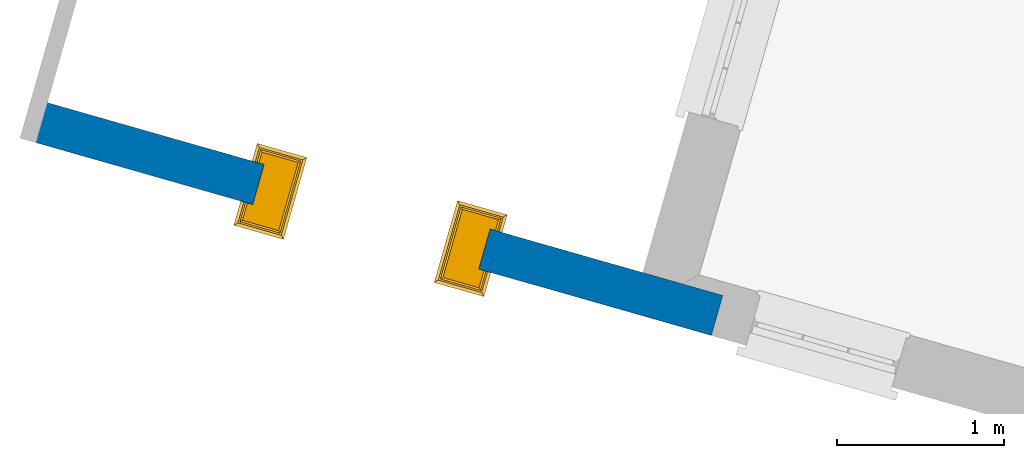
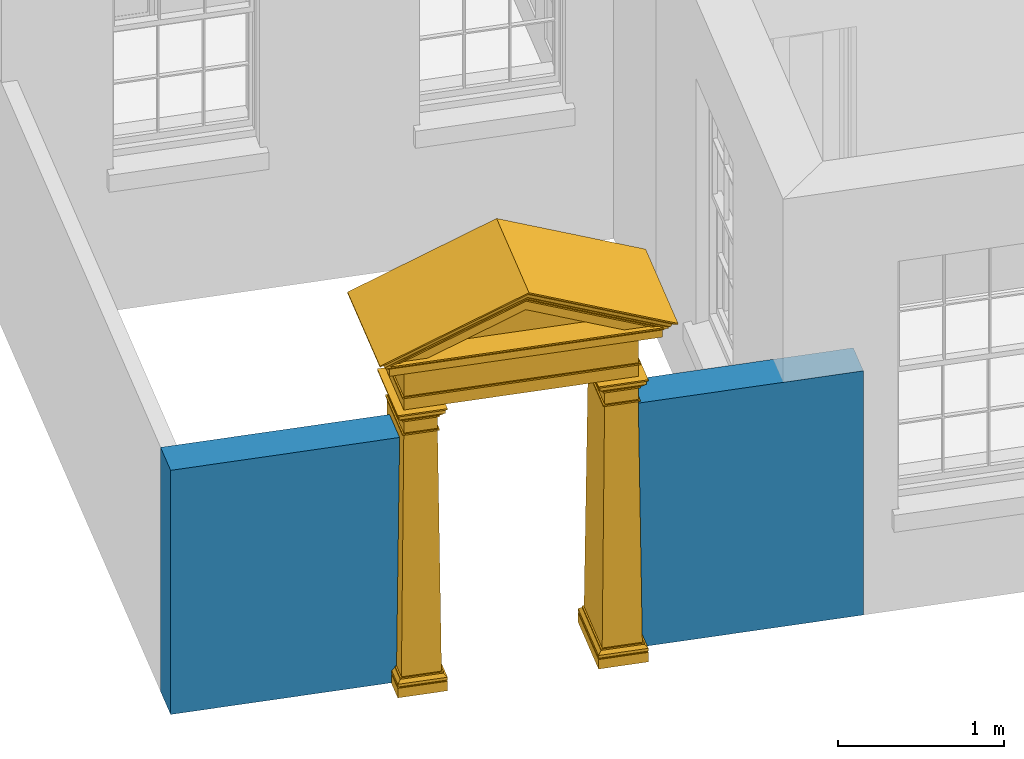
# One storey, part 2 of 7: 1 door, 1 wall, 1 opening.
"""IFC4 building model written with IfcOpenShell, lengths in metres."""

from ifc_helpers import new_model, si_unit, frame, origin, origin_with_axes, place, context, subcontext, project, spatial, polyline, outline, extrude, faceted_brep, source, transform, mapped, material, layer, layer_set, layer_usage, type_object, type_shapes, element, fill, save


model = new_model("IFC4")

# Units and contexts
model_context = context("Model", 3, world=origin_with_axes())
body_context = subcontext(model_context, "Body", "Model", "MODEL_VIEW")
ifc_project = project(units=[si_unit("PLANEANGLEUNIT", "RADIAN"), si_unit("MASSUNIT", "GRAM", prefix="KILO"), si_unit("FORCEUNIT", "NEWTON", prefix="KILO"), si_unit("LENGTHUNIT", "METRE"), si_unit("AREAUNIT", "SQUARE_METRE"), si_unit("VOLUMEUNIT", "CUBIC_METRE")], contexts=[model_context, model_context])

# Sites, building, storey
site_1_placement = place(None, origin_with_axes())
site_1 = spatial("IfcSite", under=ifc_project, at=site_1_placement, Name="Tamar")
site_2_placement = place(site_1_placement, origin_with_axes())
site_2 = spatial("IfcSite", under=site_1, at=site_2_placement, Name="Site plot-20", CompositionType="ELEMENT")
building_placement = place(None, origin_with_axes())
building = spatial("IfcBuilding", under=site_2, at=building_placement, Name="Building plot-20", CompositionType="ELEMENT")
storey_placement = place(None, frame((0.0, 0.0, 26.0), z_axis=(0.0, 0.0, 1.0), x_axis=(1.0, 0.0, 0.0)))
storey = spatial("IfcBuildingStorey", under=building, at=storey_placement, Name="plot-20 0", CompositionType="ELEMENT", Elevation=26.0)

# Wall, opening, door
ifc_material = material(Name="Masonry")
ifc_layer = layer(ifc_material, 0.25, ventilated=False)
ifc_layer_set = layer_set([ifc_layer], Name="fence_0_0.25")
ifc_layer_usage = layer_usage(ifc_layer_set, "AXIS2", "POSITIVE", -0.25)
wall_type = type_object("IfcWallType", Name="fence_0_0.25", PredefinedType="SOLIDWALL", material=ifc_layer_set)
wall_placement = place(storey_placement, frame((272.577609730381, 285.796427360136, 0.0), z_axis=(0.0, 0.0, 1.0), x_axis=(0.961567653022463, -0.274568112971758, 0.0)))
wall = element("IfcWall", 1, at=wall_placement, inside=storey, type_object=wall_type, material=ifc_layer_usage, Name="fence", context=body_context, shape_type="SweptSolid", body=[
    extrude(outline(polyline([(-0.250000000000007, 6.80297662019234e-15), (-0.250000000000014, -0.250000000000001), (4.06323123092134, -0.250000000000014), (4.06323123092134, -6.76663930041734e-15), (-0.250000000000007, 6.80297662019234e-15)])), origin_with_axes(), (0.0, 0.0, 1.0), 1.8),
])
opening_placement = place(wall_placement, frame((1.20161561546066, 0.0, -0.0100000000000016)))
opening = element("IfcOpeningElement", 2, at=opening_placement, cuts=wall, Name="My Opening", ObjectType="Opening", context=body_context, shape_type="SweptSolid", body=[
    extrude(outline(polyline([(0.0, -0.269999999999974), (1.41000000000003, -0.270000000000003), (1.40999999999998, 1.01999999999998), (-4.10782519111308e-14, 1.02000000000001), (0.0, -0.269999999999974)])), origin_with_axes(), (0.0, 0.0, 1.0), 1.81),
])
door_type = type_object("IfcDoorType", Name="gate", OperationType="SINGLE_SWING_LEFT", PredefinedType="NOTDEFINED")
shared_shape = source(origin(), body_context, "Body", "Brep", [
    faceted_brep([(1.565, 0.25, 2.5), (1.565, -0.21, 2.5), (1.565, -0.21, 2.49), (1.565, 0.25, 2.49), (1.445, -0.09, 2.01), (1.215, -0.09, 2.01), (1.215, -0.09, 2.0), (1.445, -0.09, 2.0), (-0.035, -0.09, 2.180001), (-0.025, -0.08, 2.180001), (-0.025, 0.25, 2.180001), (-0.035, 0.25, 2.180001), (-0.025, -0.08, 2.170001), (-0.035, -0.09, 2.170001), (-0.035, 0.25, 2.170001), (-0.025, 0.25, 2.170001), (1.445, -0.09, 2.180001), (1.435, -0.08, 2.180001), (-0.025, -0.08, 2.37), (-0.025, 0.25, 2.37), (1.435, -0.08, 2.170001), (1.445, -0.09, 2.170001), (-0.025, -0.08, 2.08), (-0.025, 0.25, 2.08), (1.445, 0.25, 2.180001), (1.435, 0.25, 2.180001), (1.435, -0.08, 2.37), (-0.035, -0.09, 2.37), (-0.035, 0.25, 2.37), (1.435, 0.25, 2.37), (1.445, 0.25, 2.170001), (1.435, 0.25, 2.170001), (0.235, -0.08, 2.08), (0.235, 0.25, 2.08), (1.175, 0.25, 2.08), (1.175, -0.08, 2.08), (-0.075, 0.25, 2.08), (-0.075, -0.13, 2.08), (1.445, -0.09, 2.37), (-0.035, -0.09, 2.380001), (-0.035, 0.25, 2.380001), (1.445, 0.25, 2.37), (1.435, -0.08, 2.08), (1.435, 0.25, 2.08), (0.235, 0.38, 2.07), (0.235, 0.38, 2.08), (0.235, 0.33, 2.08), (0.235, -0.13, 2.08), (-0.075, 0.25, 2.07), (-0.075, -0.13, 2.07), (1.445, -0.09, 2.380001), (-0.045, -0.1, 2.39), (-0.045, 0.25, 2.39), (1.455, 0.25, 2.39), (1.455, -0.1, 2.39), (1.445, 0.25, 2.380001), (1.485, -0.13, 2.08), (1.485, 0.25, 2.08), (0.235, -0.13, 2.07), (1.175, -0.13, 2.08), (-0.065, 0.25, 2.07), (-0.065, -0.12, 2.07), (-0.055, -0.11, 2.39), (-0.055, 0.25, 2.39), (1.465, 0.25, 2.39), (1.465, -0.11, 2.39), (1.485, 0.25, 2.07), (1.485, -0.13, 2.07), (0.225, 0.25, 2.07), (0.235, 0.25, 2.07), (0.225, -0.12, 2.07), (-0.065, 0.25, 2.04), (-0.065, -0.12, 2.04), (1.475, 0.25, 2.07), (1.475, -0.12, 2.07), (1.175, 0.25, 2.07), (1.185, 0.25, 2.07), (1.185, -0.12, 2.07), (1.175, -0.13, 2.07), (1.175, 0.33, 2.08), (1.175, 0.38, 2.07), (-0.055, -0.11, 2.4), (-0.055, 0.25, 2.4), (1.465, 0.25, 2.4), (1.465, -0.11, 2.4), (0.225, 0.25, 2.04), (0.225, -0.12, 2.04), (-0.055, 0.25, 2.04), (-0.055, -0.11, 2.04), (1.475, 0.25, 2.04), (1.475, -0.12, 2.04), (1.185, 0.25, 2.04), (1.195, 0.25, 2.04), (1.195, -0.11, 2.04), (1.185, -0.12, 2.04), (-0.065, -0.12, 2.4), (-0.065, 0.25, 2.4), (-0.085, -0.14, 2.42), (-0.085, 0.25, 2.42), (-0.085, -0.14, 2.43), (-0.085, 0.25, 2.43), (1.495, 0.25, 2.43), (1.495, -0.14, 2.43), (1.495, -0.14, 2.42), (1.495, 0.25, 2.42), (1.475, 0.25, 2.4), (1.475, -0.12, 2.4), (0.215, 0.25, 2.04), (0.215, -0.11, 2.04), (-0.055, 0.25, 2.03), (-0.055, -0.11, 2.03), (0.215, 0.25, 2.03), (0.215, -0.11, 2.03), (1.465, 0.25, 2.04), (1.465, -0.11, 2.04), (1.195, 0.25, 2.03), (1.195, -0.11, 2.03), (1.465, 0.25, 2.03), (1.465, -0.11, 2.03), (-0.145, -0.2, 2.43), (-0.145, 0.25, 2.43), (1.555, 0.25, 2.43), (1.555, -0.2, 2.43), (-0.035, 0.25, 2.01), (-0.035, -0.09, 2.01), (0.195, 0.25, 2.01), (0.195, -0.09, 2.01), (1.215, 0.25, 2.01), (1.445, 0.25, 2.01), (-0.145, -0.2, 2.49), (-0.145, 0.25, 2.49), (1.555, 0.25, 2.49), (1.555, -0.2, 2.49), (-0.035, 0.25, 2.0), (-0.035, -0.09, 2.0), (0.195, 0.25, 2.0), (0.195, -0.09, 2.0), (1.215, 0.25, 2.0), (1.445, 0.25, 2.0), (-0.155, -0.21, 2.49), (-0.155, 0.25, 2.49), (-0.155, -0.21, 2.5), (-0.155, 0.25, 2.5), (-0.165, -0.22, 2.51), (-0.165, 0.25, 2.51), (1.575, 0.25, 2.51), (1.575, -0.22, 2.51), (-0.025, -0.08, 2.0), (-0.025, 0.25, 2.0), (0.185, -0.08, 2.0), (0.185, 0.25, 2.0), (-0.025, 0.25, 1.91), (-0.025, -0.08, 1.91), (0.185, 0.25, 1.91), (0.185, -0.08, 1.91), (1.225, 0.25, 2.0), (1.225, -0.08, 2.0), (1.435, -0.08, 2.0), (1.435, 0.25, 2.0), (1.435, 0.25, 1.91), (1.435, -0.08, 1.91), (1.225, 0.25, 1.91), (1.225, -0.08, 1.91), (-0.175, -0.23, 2.51), (-0.175, 0.25, 2.51), (1.585, 0.25, 2.51), (1.585, -0.23, 2.51), (-0.035, 0.25, 1.91), (-0.035, -0.09, 1.91), (0.195, -0.09, 1.91), (0.195, 0.25, 1.91), (1.445, -0.09, 1.91), (1.445, 0.25, 1.91), (1.215, -0.09, 1.91), (1.215, 0.25, 1.91), (-0.175, -0.23, 2.52), (-0.175, 0.25, 2.52), (1.585, 0.25, 2.52), (1.585, -0.23, 2.52), (-0.035, 0.25, 1.9), (-0.035, -0.09, 1.9), (0.195, 0.25, 1.9), (0.195, -0.09, 1.9), (-0.025, -0.08, 1.9), (-0.025, 0.25, 1.9), (0.185, -0.08, 1.9), (0.185, 0.25, 1.9), (-0.045, 0.25, 0.13), (-0.045, -0.1, 0.13), (0.205, 0.25, 0.13), (0.205, -0.1, 0.13), (1.445, -0.09, 1.9), (1.445, 0.25, 1.9), (1.435, -0.08, 1.9), (1.435, 0.25, 1.9), (1.455, -0.1, 0.13), (1.455, 0.25, 0.13), (1.225, 0.25, 1.9), (1.205, 0.25, 0.13), (1.205, -0.1, 0.13), (1.225, -0.08, 1.9), (1.215, -0.09, 1.9), (1.215, 0.25, 1.9), (-0.185, -0.24, 2.526), (-0.185, 0.25, 2.526), (-0.150858, -0.23, 2.52), (1.560858, -0.23, 2.52), (-0.195, -0.25, 2.551001), (-0.195, 0.25, 2.551001), (-0.223, 0.25, 2.561001), (-0.223, -0.278, 2.561001), (1.633, -0.278, 2.561001), (1.605, -0.25, 2.551001), (1.605, 0.25, 2.551001), (1.633, 0.25, 2.561001), (1.595, 0.25, 2.526), (1.595, -0.24, 2.526), (-0.055, 0.25, 0.13), (-0.055, -0.11, 0.13), (0.215, 0.25, 0.13), (0.215, -0.11, 0.13), (1.465, -0.11, 0.13), (1.465, 0.25, 0.13), (1.195, 0.25, 0.13), (1.195, -0.11, 0.13), (0.705, -0.23, 2.884508), (0.705, -0.24, 2.89465), (0.705, -0.23, 2.874508), (1.486538, -0.21, 2.522499), (-0.076538, -0.21, 2.522499), (0.705, -0.25, 2.923792), (0.705, -0.278, 2.945389), (-0.223, -0.278, 2.571001), (-0.223, 0.25, 2.571001), (1.633, 0.25, 2.571001), (1.633, -0.278, 2.571001), (-0.055, 0.25, 0.12), (-0.055, -0.11, 0.12), (0.215, 0.25, 0.12), (0.215, -0.11, 0.12), (-0.075, 0.25, 0.1), (-0.075, -0.13, 0.1), (0.235, 0.25, 0.1), (0.235, -0.13, 0.1), (1.465, 0.25, 0.12), (1.465, -0.11, 0.12), (1.485, 0.25, 0.1), (1.485, -0.13, 0.1), (1.195, 0.25, 0.12), (1.175, 0.25, 0.1), (1.175, -0.13, 0.1), (1.195, -0.11, 0.12), (-0.13784, -0.22, 2.52125), (0.705, -0.22, 2.870365), (1.51068, -0.21, 2.522499), (1.54784, -0.22, 2.52125), (1.316733, -0.2, 2.523749), (0.093267, -0.2, 2.523749), (-0.10068, -0.21, 2.522499), (0.705, -0.278, 2.955389), (0.705, 0.25, 2.955389), (-0.075, 0.25, 0.08), (-0.075, -0.13, 0.08), (0.235, 0.25, 0.08), (0.235, -0.13, 0.08), (1.485, -0.13, 0.08), (1.485, 0.25, 0.08), (1.175, 0.25, 0.08), (1.175, -0.13, 0.08), (0.705, -0.21, 2.856223), (0.705, -0.21, 2.846222), (1.272495, -0.14, 2.53125), (0.137505, -0.14, 2.53125), (-0.06352, -0.2, 2.523749), (1.47352, -0.2, 2.523749), (-0.065, 0.25, 0.07), (-0.065, -0.12, 0.07), (0.225, 0.25, 0.07), (0.225, -0.12, 0.07), (1.475, 0.25, 0.07), (1.475, -0.12, 0.07), (1.185, 0.25, 0.07), (1.185, -0.12, 0.07), (0.705, -0.2, 2.842082), (1.298626, -0.14, 2.53125), (1.214197, -0.12, 2.533749), (0.195803, -0.12, 2.533749), (0.111374, -0.14, 2.53125), (0.705, -0.2, 2.777137), (-0.075, 0.25, 0.07), (-0.075, -0.13, 0.07), (0.235, -0.13, 0.07), (0.235, 0.25, 0.07), (0.235, -0.13, 0.0), (-0.075, -0.13, 0.0), (-0.075, 0.25, 0.0), (0.235, 0.25, 0.0), (1.485, -0.13, 0.07), (1.485, 0.25, 0.07), (1.485, -0.13, 0.0), (1.175, -0.13, 0.0), (1.175, 0.25, 0.0), (1.485, 0.25, 0.0), (1.175, -0.13, 0.07), (1.175, 0.25, 0.07), (0.705, -0.14, 2.766314), (0.705, -0.14, 2.777137), (0.705, -0.12, 2.744666), (1.185048, -0.11, 2.535), (0.224952, -0.11, 2.535), (0.705, -0.11, 2.744666), (1.211179, -0.11, 2.535), (1.12675, -0.09, 2.537501), (0.28325, -0.09, 2.537501), (0.198821, -0.11, 2.535), (0.705, -0.11, 2.733843), (1.152881, -0.09, 2.537501), (1.18203, -0.1, 2.536251), (0.286268, -0.08, 2.538751), (1.123732, -0.08, 2.538751), (0.22797, -0.1, 2.536251), (0.257119, -0.09, 2.537501), (0.705, -0.1, 2.733843), (0.705, -0.09, 2.712194), (0.705, -0.09, 2.723017), (0.705, -0.08, 2.712194), (-0.155, 0.46, 2.5), (-0.155, 0.46, 2.49), (-0.035, 0.34, 2.01), (0.195, 0.34, 2.01), (0.195, 0.34, 2.0), (-0.035, 0.34, 2.0), (1.445, 0.34, 2.180001), (1.435, 0.33, 2.180001), (1.435, 0.33, 2.170001), (1.445, 0.34, 2.170001), (-0.035, 0.34, 2.180001), (-0.025, 0.33, 2.180001), (1.435, 0.33, 2.37), (-0.025, 0.33, 2.170001), (-0.035, 0.34, 2.170001), (1.435, 0.33, 2.08), (-0.025, 0.33, 2.37), (1.445, 0.34, 2.37), (1.485, 0.38, 2.08), (-0.035, 0.34, 2.37), (1.445, 0.34, 2.380001), (-0.025, 0.33, 2.08), (1.175, 0.38, 2.08), (1.485, 0.38, 2.07), (-0.035, 0.34, 2.380001), (1.455, 0.35, 2.39), (-0.045, 0.35, 2.39), (-0.075, 0.38, 2.08), (1.475, 0.37, 2.07), (1.465, 0.36, 2.39), (-0.055, 0.36, 2.39), (-0.075, 0.38, 2.07), (1.185, 0.37, 2.07), (1.475, 0.37, 2.04), (-0.065, 0.37, 2.07), (0.225, 0.37, 2.07), (1.465, 0.36, 2.4), (-0.055, 0.36, 2.4), (1.185, 0.37, 2.04), (1.465, 0.36, 2.04), (-0.065, 0.37, 2.04), (0.215, 0.36, 2.04), (0.225, 0.37, 2.04), (1.475, 0.37, 2.4), (1.495, 0.39, 2.42), (1.495, 0.39, 2.43), (-0.085, 0.39, 2.43), (-0.085, 0.39, 2.42), (-0.065, 0.37, 2.4), (1.195, 0.36, 2.04), (1.465, 0.36, 2.03), (1.195, 0.36, 2.03), (-0.055, 0.36, 2.04), (0.215, 0.36, 2.03), (-0.055, 0.36, 2.03), (1.555, 0.45, 2.43), (-0.145, 0.45, 2.43), (1.445, 0.34, 2.01), (1.215, 0.34, 2.01), (1.555, 0.45, 2.49), (-0.145, 0.45, 2.49), (1.445, 0.34, 2.0), (1.215, 0.34, 2.0), (1.565, 0.46, 2.49), (1.565, 0.46, 2.5), (1.575, 0.47, 2.51), (-0.165, 0.47, 2.51), (1.435, 0.33, 2.0), (1.225, 0.33, 2.0), (1.435, 0.33, 1.91), (1.225, 0.33, 1.91), (0.185, 0.33, 2.0), (-0.025, 0.33, 2.0), (-0.025, 0.33, 1.91), (0.185, 0.33, 1.91), (1.585, 0.48, 2.51), (-0.175, 0.48, 2.51), (1.445, 0.34, 1.91), (1.215, 0.34, 1.91), (-0.035, 0.34, 1.91), (0.195, 0.34, 1.91), (1.585, 0.48, 2.52), (-0.175, 0.48, 2.52), (1.445, 0.34, 1.9), (1.215, 0.34, 1.9), (1.435, 0.33, 1.9), (1.225, 0.33, 1.9), (1.455, 0.35, 0.13), (1.205, 0.35, 0.13), (-0.035, 0.34, 1.9), (-0.025, 0.33, 1.9), (-0.045, 0.35, 0.13), (0.205, 0.35, 0.13), (0.185, 0.33, 1.9), (0.195, 0.34, 1.9), (1.595, 0.49, 2.526), (1.560858, 0.48, 2.52), (-0.150858, 0.48, 2.52), (1.605, 0.5, 2.551001), (1.633, 0.528, 2.561001), (-0.223, 0.528, 2.561001), (-0.195, 0.5, 2.551001), (-0.185, 0.49, 2.526), (1.465, 0.36, 0.13), (1.195, 0.36, 0.13), (-0.055, 0.36, 0.13), (0.215, 0.36, 0.13), (0.705, 0.48, 2.884508), (0.705, 0.49, 2.89465), (0.705, 0.48, 2.874508), (-0.076538, 0.46, 2.522499), (1.486538, 0.46, 2.522499), (0.705, 0.5, 2.923792), (0.705, 0.528, 2.945389), (1.633, 0.528, 2.571001), (-0.223, 0.528, 2.571001), (1.465, 0.36, 0.12), (1.195, 0.36, 0.12), (1.485, 0.38, 0.1), (1.175, 0.38, 0.1), (-0.055, 0.36, 0.12), (-0.075, 0.38, 0.1), (0.235, 0.38, 0.1), (0.215, 0.36, 0.12), (1.54784, 0.47, 2.52125), (0.705, 0.47, 2.870365), (-0.10068, 0.46, 2.522499), (-0.13784, 0.47, 2.52125), (0.093267, 0.45, 2.523749), (1.316733, 0.45, 2.523749), (1.51068, 0.46, 2.522499), (0.705, 0.528, 2.955389), (1.485, 0.38, 0.08), (1.175, 0.38, 0.08), (-0.075, 0.38, 0.08), (0.235, 0.38, 0.08), (0.705, 0.46, 2.856223), (0.705, 0.46, 2.846222), (0.137505, 0.39, 2.53125), (1.272495, 0.39, 2.53125), (1.47352, 0.45, 2.523749), (-0.06352, 0.45, 2.523749), (1.475, 0.37, 0.07), (1.185, 0.37, 0.07), (-0.065, 0.37, 0.07), (0.225, 0.37, 0.07), (0.705, 0.45, 2.842082), (0.111374, 0.39, 2.53125), (0.195803, 0.37, 2.533749), (1.214197, 0.37, 2.533749), (1.298626, 0.39, 2.53125), (0.705, 0.45, 2.777137), (1.485, 0.38, 0.07), (1.175, 0.38, 0.07), (1.175, 0.38, 0.0), (1.485, 0.38, 0.0), (-0.075, 0.38, 0.07), (-0.075, 0.38, 0.0), (0.235, 0.38, 0.0), (0.235, 0.38, 0.07), (0.705, 0.39, 2.766314), (0.705, 0.39, 2.777137), (0.705, 0.37, 2.744666), (0.224952, 0.36, 2.535), (1.185048, 0.36, 2.535), (0.705, 0.36, 2.744666), (0.198821, 0.36, 2.535), (0.28325, 0.34, 2.537501), (1.12675, 0.34, 2.537501), (1.211179, 0.36, 2.535), (0.705, 0.36, 2.733843), (0.257119, 0.34, 2.537501), (0.22797, 0.35, 2.536251), (1.123732, 0.33, 2.538751), (0.286268, 0.33, 2.538751), (1.18203, 0.35, 2.536251), (1.152881, 0.34, 2.537501), (0.705, 0.35, 2.733843), (0.705, 0.34, 2.723017), (0.705, 0.34, 2.712194), (0.705, 0.33, 2.712194)], [[[0, 1, 2, 3]], [[4, 5, 6, 7]], [[8, 9, 10, 11]], [[12, 13, 14, 15]], [[13, 8, 11, 14]], [[9, 8, 16, 17]], [[9, 18, 19, 10]], [[13, 12, 20, 21]], [[22, 12, 15, 23]], [[8, 13, 21, 16]], [[17, 16, 24, 25]], [[18, 9, 17, 26]], [[27, 28, 19, 18]], [[26, 17, 25, 29]], [[16, 21, 30, 24]], [[21, 20, 31, 30]], [[32, 33, 34, 35]], [[12, 32, 35, 20]], [[12, 22, 32]], [[22, 23, 36, 37]], [[27, 18, 26, 38]], [[39, 40, 28, 27]], [[41, 38, 26, 29]], [[20, 42, 43, 31]], [[44, 45, 46]], [[42, 20, 35]], [[37, 47, 32, 22]], [[36, 48, 49, 37]], [[39, 27, 38, 50]], [[51, 52, 40, 39]], [[53, 54, 50, 55]], [[55, 50, 38, 41]], [[43, 42, 56, 57]], [[32, 47, 58]], [[59, 56, 42, 35]], [[58, 47, 37, 49]], [[48, 60, 61, 49]], [[51, 39, 50, 54]], [[62, 63, 52, 51]], [[64, 65, 54, 53]], [[66, 57, 56, 67]], [[68, 69, 58, 70]], [[60, 71, 72, 61]], [[73, 66, 67, 74]], [[75, 76, 77, 78]], [[34, 79, 80, 75]], [[59, 78, 67, 56]], [[61, 70, 58, 49]], [[62, 51, 54, 65]], [[81, 82, 63, 62]], [[83, 84, 65, 64]], [[85, 68, 70, 86]], [[71, 87, 88, 72]], [[86, 70, 61, 72]], [[77, 74, 67, 78]], [[89, 73, 74, 90]], [[91, 92, 93, 94]], [[76, 91, 94, 77]], [[81, 62, 65, 84]], [[95, 96, 82, 81]], [[97, 98, 96, 95]], [[99, 100, 98, 97]], [[101, 102, 103, 104]], [[105, 106, 84, 83]], [[104, 103, 106, 105]], [[107, 85, 86, 108]], [[87, 109, 110, 88]], [[88, 108, 86, 72]], [[111, 107, 108, 112]], [[77, 94, 90, 74]], [[113, 89, 90, 114]], [[92, 115, 116, 93]], [[93, 114, 90, 94]], [[117, 113, 114, 118]], [[95, 81, 84, 106]], [[97, 95, 106, 103]], [[119, 120, 100, 99]], [[99, 97, 103, 102]], [[121, 122, 102, 101]], [[109, 123, 124, 110]], [[112, 108, 88, 110]], [[125, 111, 112, 126]], [[115, 127, 5, 116]], [[93, 116, 118, 114]], [[128, 117, 118, 4]], [[129, 130, 120, 119]], [[119, 99, 102, 122]], [[131, 132, 122, 121]], [[123, 133, 134, 124]], [[110, 124, 126, 112]], [[135, 125, 126, 136]], [[127, 137, 6, 5]], [[4, 118, 116, 5]], [[138, 128, 4, 7]], [[139, 140, 130, 129]], [[129, 119, 122, 132]], [[141, 142, 140, 139]], [[143, 144, 142, 141]], [[145, 146, 1, 0]], [[3, 2, 132, 131]], [[147, 134, 133, 148]], [[126, 124, 134, 136]], [[135, 136, 149, 150]], [[148, 151, 152, 147]], [[153, 150, 149, 154]], [[6, 137, 155, 156]], [[7, 157, 158, 138]], [[159, 158, 157, 160]], [[155, 161, 162, 156]], [[139, 129, 132, 2]], [[141, 139, 2, 1]], [[163, 164, 144, 143]], [[143, 141, 1, 146]], [[165, 166, 146, 145]], [[147, 149, 136, 134]], [[167, 168, 152, 151]], [[147, 152, 154, 149]], [[154, 169, 170, 153]], [[156, 157, 7, 6]], [[160, 157, 156, 162]], [[171, 172, 159, 160]], [[173, 162, 161, 174]], [[175, 176, 164, 163]], [[163, 143, 146, 166]], [[177, 178, 166, 165]], [[179, 180, 168, 167]], [[154, 152, 168, 169]], [[181, 170, 169, 182]], [[183, 180, 179, 184]], [[181, 182, 185, 186]], [[184, 187, 188, 183]], [[189, 186, 185, 190]], [[160, 162, 173, 171]], [[191, 192, 172, 171]], [[191, 193, 194, 192]], [[193, 195, 196, 194]], [[197, 198, 199, 200]], [[201, 202, 197, 200]], [[174, 202, 201, 173]], [[203, 204, 176, 175]], [[175, 163, 205]], [[163, 166, 206, 205]], [[207, 208, 204, 203]], [[209, 208, 207, 210]], [[211, 212, 213, 214]], [[215, 216, 178, 177]], [[213, 212, 216, 215]], [[178, 206, 166]], [[180, 182, 169, 168]], [[183, 185, 182, 180]], [[187, 217, 218, 188]], [[183, 188, 190, 185]], [[219, 189, 190, 220]], [[201, 191, 171, 173]], [[200, 193, 191, 201]], [[195, 193, 200, 199]], [[195, 221, 222, 196]], [[198, 223, 224, 199]], [[175, 225, 226, 203]], [[225, 175, 205, 227]], [[205, 206, 228, 229]], [[203, 226, 230, 207]], [[207, 230, 231, 210]], [[232, 233, 209, 210]], [[234, 235, 211, 214]], [[231, 230, 212, 211]], [[216, 226, 225, 178]], [[212, 230, 226, 216]], [[227, 206, 178, 225]], [[217, 236, 237, 218]], [[220, 190, 188, 218]], [[238, 219, 220, 239]], [[236, 240, 241, 237]], [[242, 238, 239, 243]], [[221, 195, 199, 224]], [[244, 222, 221, 245]], [[246, 244, 245, 247]], [[248, 249, 250, 251]], [[223, 248, 251, 224]], [[227, 205, 252, 253]], [[254, 228, 206, 255]], [[256, 257, 229, 228]], [[252, 205, 229, 258]], [[231, 259, 232, 210]], [[260, 233, 232, 259]], [[234, 260, 259, 235]], [[259, 231, 211, 235]], [[253, 255, 206, 227]], [[239, 220, 218, 237]], [[261, 262, 241, 240]], [[243, 239, 237, 241]], [[263, 242, 243, 264]], [[224, 251, 245, 221]], [[251, 250, 247, 245]], [[265, 266, 246, 247]], [[249, 267, 268, 250]], [[253, 252, 258, 269]], [[270, 228, 254, 269]], [[269, 254, 255, 253]], [[256, 271, 272, 257]], [[273, 229, 257]], [[274, 256, 228]], [[269, 258, 229, 270]], [[261, 275, 276, 262]], [[264, 243, 241, 262]], [[277, 263, 264, 278]], [[250, 268, 265, 247]], [[279, 266, 265, 280]], [[267, 281, 282, 268]], [[283, 274, 228, 270]], [[284, 271, 256]], [[271, 285, 286, 272]], [[287, 257, 272]], [[270, 229, 273, 283]], [[283, 273, 257, 288]], [[288, 256, 274, 283]], [[289, 290, 276, 275]], [[262, 276, 278, 264]], [[278, 291, 292, 277]], [[293, 294, 295, 296]], [[280, 265, 268, 282]], [[297, 298, 279, 280]], [[299, 300, 301, 302]], [[303, 282, 281, 304]], [[305, 271, 284, 306]], [[306, 284, 256, 288]], [[307, 285, 271, 305]], [[285, 308, 309, 286]], [[305, 272, 286, 307]], [[288, 257, 287, 306]], [[306, 287, 272, 305]], [[289, 295, 294, 290]], [[278, 276, 290, 291]], [[296, 292, 291, 293]], [[290, 294, 293, 291]], [[280, 282, 303, 297]], [[302, 298, 297, 299]], [[299, 297, 303, 300]], [[304, 301, 300, 303]], [[310, 311, 285, 307]], [[311, 308, 285]], [[308, 312, 313, 309]], [[314, 286, 309]], [[307, 286, 314, 310]], [[315, 308, 311, 310]], [[316, 312, 308, 317]], [[318, 313, 312, 319]], [[320, 309, 313, 321]], [[310, 314, 309, 315]], [[322, 317, 308, 315]], [[323, 312, 316, 324]], [[324, 316, 317, 322]], [[323, 313, 318, 325]], [[325, 319, 312, 323]], [[325, 318, 319]], [[315, 309, 320, 322]], [[324, 321, 313, 323]], [[322, 320, 321, 324]], [[142, 326, 327, 140]], [[328, 329, 330, 331]], [[332, 333, 25, 24]], [[334, 335, 30, 31]], [[335, 332, 24, 30]], [[333, 332, 336, 337]], [[333, 338, 29, 25]], [[335, 334, 339, 340]], [[341, 334, 31, 43]], [[332, 335, 340, 336]], [[337, 336, 11, 10]], [[338, 333, 337, 342]], [[343, 41, 29, 338]], [[342, 337, 10, 19]], [[336, 340, 14, 11]], [[340, 339, 15, 14]], [[79, 34, 33, 46]], [[334, 79, 46, 339]], [[334, 341, 79]], [[341, 43, 57, 344]], [[343, 338, 342, 345]], [[346, 55, 41, 343]], [[28, 345, 342, 19]], [[339, 347, 23, 15]], [[35, 34, 75, 78]], [[33, 32, 58, 69]], [[347, 339, 46]], [[344, 348, 79, 341]], [[57, 66, 349, 344]], [[346, 343, 345, 350]], [[351, 53, 55, 346]], [[52, 352, 350, 40]], [[40, 350, 345, 28]], [[23, 347, 353, 36]], [[79, 348, 80]], [[45, 353, 347, 46]], [[80, 348, 344, 349]], [[66, 73, 354, 349]], [[351, 346, 350, 352]], [[355, 64, 53, 351]], [[63, 356, 352, 52]], [[48, 36, 353, 357]], [[76, 75, 80, 358]], [[73, 89, 359, 354]], [[60, 48, 357, 360]], [[69, 68, 361, 44]], [[46, 33, 69, 44]], [[45, 44, 357, 353]], [[354, 358, 80, 349]], [[355, 351, 352, 356]], [[362, 83, 64, 355]], [[82, 363, 356, 63]], [[91, 76, 358, 364]], [[89, 113, 365, 359]], [[364, 358, 354, 359]], [[361, 360, 357, 44]], [[71, 60, 360, 366]], [[85, 107, 367, 368]], [[68, 85, 368, 361]], [[362, 355, 356, 363]], [[369, 105, 83, 362]], [[370, 104, 105, 369]], [[371, 101, 104, 370]], [[100, 372, 373, 98]], [[96, 374, 363, 82]], [[98, 373, 374, 96]], [[92, 91, 364, 375]], [[113, 117, 376, 365]], [[365, 375, 364, 359]], [[115, 92, 375, 377]], [[361, 368, 366, 360]], [[87, 71, 366, 378]], [[107, 111, 379, 367]], [[367, 378, 366, 368]], [[109, 87, 378, 380]], [[369, 362, 363, 374]], [[370, 369, 374, 373]], [[381, 121, 101, 371]], [[371, 370, 373, 372]], [[120, 382, 372, 100]], [[117, 128, 383, 376]], [[377, 375, 365, 376]], [[127, 115, 377, 384]], [[111, 125, 329, 379]], [[367, 379, 380, 378]], [[123, 109, 380, 328]], [[385, 131, 121, 381]], [[381, 371, 372, 382]], [[130, 386, 382, 120]], [[128, 138, 387, 383]], [[376, 383, 384, 377]], [[137, 127, 384, 388]], [[125, 135, 330, 329]], [[328, 380, 379, 329]], [[133, 123, 328, 331]], [[389, 3, 131, 385]], [[385, 381, 382, 386]], [[390, 0, 3, 389]], [[391, 145, 0, 390]], [[144, 392, 326, 142]], [[140, 327, 386, 130]], [[393, 387, 138, 158]], [[384, 383, 387, 388]], [[137, 388, 394, 155]], [[158, 159, 395, 393]], [[161, 155, 394, 396]], [[330, 135, 150, 397]], [[331, 398, 148, 133]], [[151, 148, 398, 399]], [[150, 153, 400, 397]], [[389, 385, 386, 327]], [[390, 389, 327, 326]], [[401, 165, 145, 391]], [[391, 390, 326, 392]], [[164, 402, 392, 144]], [[393, 394, 388, 387]], [[172, 403, 395, 159]], [[393, 395, 396, 394]], [[396, 404, 174, 161]], [[397, 398, 331, 330]], [[399, 398, 397, 400]], [[405, 167, 151, 399]], [[406, 400, 153, 170]], [[407, 177, 165, 401]], [[401, 391, 392, 402]], [[176, 408, 402, 164]], [[192, 409, 403, 172]], [[396, 395, 403, 404]], [[202, 174, 404, 410]], [[411, 409, 192, 194]], [[202, 410, 412, 197]], [[194, 196, 413, 411]], [[198, 197, 412, 414]], [[399, 400, 406, 405]], [[415, 179, 167, 405]], [[415, 416, 184, 179]], [[416, 417, 187, 184]], [[186, 189, 418, 419]], [[420, 181, 186, 419]], [[170, 181, 420, 406]], [[421, 215, 177, 407]], [[407, 401, 422]], [[401, 402, 423, 422]], [[424, 213, 215, 421]], [[214, 213, 424, 425]], [[426, 427, 208, 209]], [[204, 428, 408, 176]], [[208, 427, 428, 204]], [[408, 423, 402]], [[409, 410, 404, 403]], [[411, 412, 410, 409]], [[196, 222, 429, 413]], [[411, 413, 414, 412]], [[223, 198, 414, 430]], [[420, 415, 405, 406]], [[419, 416, 415, 420]], [[417, 416, 419, 418]], [[417, 431, 217, 187]], [[189, 219, 432, 418]], [[407, 433, 434, 421]], [[433, 407, 422, 435]], [[422, 423, 436, 437]], [[421, 434, 438, 424]], [[424, 438, 439, 425]], [[440, 234, 214, 425]], [[233, 441, 426, 209]], [[439, 438, 427, 426]], [[428, 434, 433, 408]], [[427, 438, 434, 428]], [[435, 423, 408, 433]], [[222, 244, 442, 429]], [[430, 414, 413, 429]], [[248, 223, 430, 443]], [[244, 246, 444, 442]], [[249, 248, 443, 445]], [[431, 417, 418, 432]], [[236, 217, 431, 446]], [[240, 236, 446, 447]], [[238, 242, 448, 449]], [[219, 238, 449, 432]], [[435, 422, 450, 451]], [[452, 436, 423, 453]], [[454, 455, 437, 436]], [[450, 422, 437, 456]], [[439, 457, 440, 425]], [[260, 234, 440, 457]], [[233, 260, 457, 441]], [[457, 439, 426, 441]], [[451, 453, 423, 435]], [[443, 430, 429, 442]], [[266, 458, 444, 246]], [[445, 443, 442, 444]], [[267, 249, 445, 459]], [[432, 449, 446, 431]], [[449, 448, 447, 446]], [[460, 261, 240, 447]], [[242, 263, 461, 448]], [[451, 450, 456, 462]], [[463, 436, 452, 462]], [[462, 452, 453, 451]], [[454, 464, 465, 455]], [[466, 437, 455]], [[467, 454, 436]], [[462, 456, 437, 463]], [[266, 279, 468, 458]], [[459, 445, 444, 458]], [[281, 267, 459, 469]], [[448, 461, 460, 447]], [[275, 261, 460, 470]], [[263, 277, 471, 461]], [[472, 467, 436, 463]], [[473, 464, 454]], [[464, 474, 475, 465]], [[476, 455, 465]], [[463, 437, 466, 472]], [[472, 466, 455, 477]], [[477, 454, 467, 472]], [[298, 478, 468, 279]], [[458, 468, 469, 459]], [[469, 479, 304, 281]], [[480, 481, 302, 301]], [[470, 460, 461, 471]], [[482, 289, 275, 470]], [[483, 484, 296, 295]], [[485, 471, 277, 292]], [[486, 464, 473, 487]], [[487, 473, 454, 477]], [[488, 474, 464, 486]], [[474, 489, 490, 475]], [[486, 465, 475, 488]], [[477, 455, 476, 487]], [[487, 476, 465, 486]], [[298, 302, 481, 478]], [[469, 468, 478, 479]], [[301, 304, 479, 480]], [[478, 481, 480, 479]], [[470, 471, 485, 482]], [[295, 289, 482, 483]], [[483, 482, 485, 484]], [[292, 296, 484, 485]], [[491, 492, 474, 488]], [[492, 489, 474]], [[489, 493, 494, 490]], [[495, 475, 490]], [[488, 475, 495, 491]], [[496, 489, 492, 491]], [[497, 493, 489, 498]], [[499, 494, 493, 500]], [[501, 490, 494, 502]], [[491, 495, 490, 496]], [[503, 498, 489, 496]], [[497, 504, 505, 493]], [[504, 497, 498, 503]], [[505, 494, 499, 506]], [[506, 500, 493, 505]], [[506, 499, 500]], [[496, 490, 501, 503]], [[504, 502, 494, 505]], [[503, 501, 502, 504]], [[78, 59, 35]]]),
])
type_shapes(door_type, [shared_shape])
door_placement = place(storey_placement, frame((273.658911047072, 285.206878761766, -0.0100000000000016), z_axis=(0.0, 0.0, 1.0), x_axis=(1.35581039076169, -0.387141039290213, 0.0)))
door = element("IfcDoor", 3, at=door_placement, inside=storey, type_object=door_type, Name="house entrance gate", OverallHeight=1.81, OverallWidth=1.41, context=body_context, shape_type="MappedRepresentation", body=[
    mapped(shared_shape, transform((0.0, 0.0, 0.0), scale=1.0)),
])
fill(opening, door)

save(model, "model.ifc")
